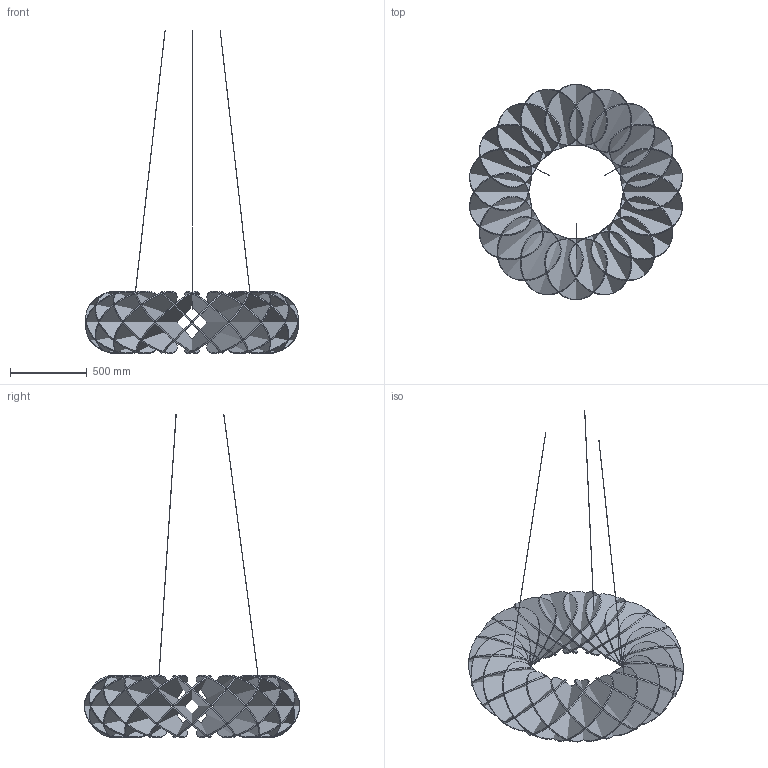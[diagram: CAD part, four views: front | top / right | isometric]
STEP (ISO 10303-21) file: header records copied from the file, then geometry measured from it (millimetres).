
FILE_DESCRIPTION(/* description */ (''),/* implementation_level */ '2;1');
FILE_NAME(/* name */ 'Halo Baffle 1400_Lumenear_STEP',/* time_stamp */ '2024-11-07T11:43:05+01:00',/* author */ (''),/* organization */ (''),/* preprocessor_version */ 'ST-DEVELOPER v16.5',/* originating_system */ 'Rhino 7.37',/* authorisation */ '');
FILE_SCHEMA (('CONFIG_CONTROL_DESIGN'));
Length unit declared in the file: millimetre
Products named in the file (1): Document
Bounding box: 1384.34 x 1400 x 2101.99 mm (x, y, z)
Volume: 58966695.2 mm3; surface area: 13618939.5 mm2
Topology: 39 solids, 39 shells, 156 faces, 234 edges, 156 vertices
Faces by surface type: bspline 78, plane 78
Entity records: 20096 total; most frequent: CARTESIAN_POINT 18080, ORIENTED_EDGE 468, EDGE_CURVE 234, B_SPLINE_CURVE_WITH_KNOTS 216, ADVANCED_FACE 156, FACE_OUTER_BOUND 156, EDGE_LOOP 156, VERTEX_POINT 156
